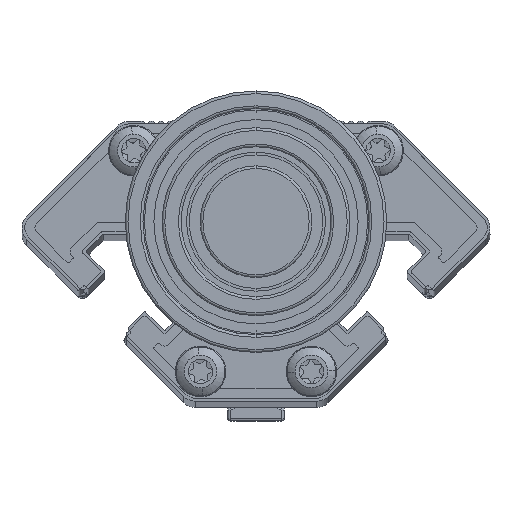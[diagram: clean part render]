
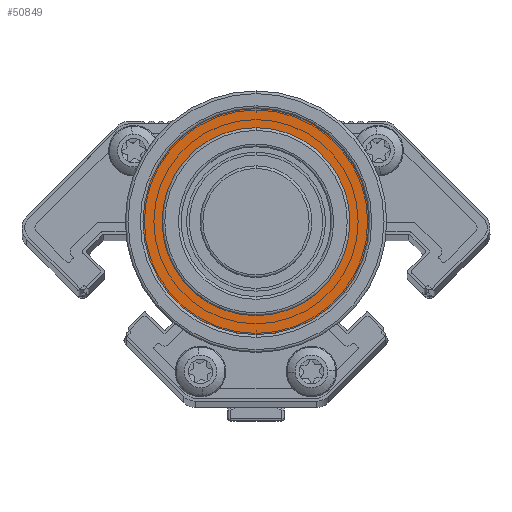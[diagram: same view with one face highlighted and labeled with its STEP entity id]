
A CAD part, top view. The second image highlights one B-rep face of the part: STEP entity #50849.
In plain terms, the highlighted planar face has unit normal (0, 0, 1).
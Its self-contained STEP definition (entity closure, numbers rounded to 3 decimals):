
#2730 = AXIS2_PLACEMENT_3D ( 'NONE', #21792, #81770, #30414 ) ;
#3558 = VERTEX_POINT ( 'NONE', #104944 ) ;
#5675 = VERTEX_POINT ( 'NONE', #37623 ) ;
#9169 = CARTESIAN_POINT ( 'NONE',  ( -53.777, 2.976, 389.745 ) ) ;
#10653 = AXIS2_PLACEMENT_3D ( 'NONE', #85616, #34247, #94217 ) ;
#17496 = DIRECTION ( 'NONE',  ( 0., -1., 0. ) ) ;
#18377 = ORIENTED_EDGE ( 'NONE', *, *, #101572, .F. ) ;
#20778 = ORIENTED_EDGE ( 'NONE', *, *, #36251, .F. ) ;
#21792 = CARTESIAN_POINT ( 'NONE',  ( -53.777, 20.226, 389.745 ) ) ;
#22296 = VERTEX_POINT ( 'NONE', #62883 ) ;
#23459 = VERTEX_POINT ( 'NONE', #9169 ) ;
#29966 = EDGE_CURVE ( 'NONE', #5675, #23459, #68514, .T. ) ;
#30414 = DIRECTION ( 'NONE',  ( 0., 1., 0. ) ) ;
#31156 = ORIENTED_EDGE ( 'NONE', *, *, #64836, .T. ) ;
#31513 = DIRECTION ( 'NONE',  ( 0., 0., -1. ) ) ;
#33235 = CARTESIAN_POINT ( 'NONE',  ( -53.777, 20.226, 389.745 ) ) ;
#34247 = DIRECTION ( 'NONE',  ( 0., 0., -1. ) ) ;
#36251 = EDGE_CURVE ( 'NONE', #22296, #3558, #58250, .T. ) ;
#37248 = CIRCLE ( 'NONE', #38311, 17.25 ) ;
#37623 = CARTESIAN_POINT ( 'NONE',  ( -53.777, 37.476, 389.745 ) ) ;
#38311 = AXIS2_PLACEMENT_3D ( 'NONE', #33235, #93206, #41851 ) ;
#41851 = DIRECTION ( 'NONE',  ( 0., 1., 0. ) ) ;
#44737 = EDGE_LOOP ( 'NONE', ( #75174, #31156 ) ) ;
#50849 = ADVANCED_FACE ( 'NONE', ( #91279, #65775 ), #77082, .T. ) ;
#58250 = CIRCLE ( 'NONE', #62969, 20.75 ) ;
#58351 = AXIS2_PLACEMENT_3D ( 'NONE', #60240, #68837, #17496 ) ;
#60240 = CARTESIAN_POINT ( 'NONE',  ( -74.527, 20.226, 389.745 ) ) ;
#62883 = CARTESIAN_POINT ( 'NONE',  ( -53.777, 40.976, 389.745 ) ) ;
#62969 = AXIS2_PLACEMENT_3D ( 'NONE', #82908, #31513, #91499 ) ;
#64836 = EDGE_CURVE ( 'NONE', #23459, #5675, #37248, .T. ) ;
#65775 = FACE_OUTER_BOUND ( 'NONE', #72234, .T. ) ;
#68514 = CIRCLE ( 'NONE', #10653, 17.25 ) ;
#68837 = DIRECTION ( 'NONE',  ( 0., 0., 1. ) ) ;
#72234 = EDGE_LOOP ( 'NONE', ( #20778, #18377 ) ) ;
#75174 = ORIENTED_EDGE ( 'NONE', *, *, #29966, .T. ) ;
#77082 = PLANE ( 'NONE',  #58351 ) ;
#81149 = CIRCLE ( 'NONE', #2730, 20.75 ) ;
#81770 = DIRECTION ( 'NONE',  ( 0., 0., -1. ) ) ;
#82908 = CARTESIAN_POINT ( 'NONE',  ( -53.777, 20.226, 389.745 ) ) ;
#85616 = CARTESIAN_POINT ( 'NONE',  ( -53.777, 20.226, 389.745 ) ) ;
#91279 = FACE_BOUND ( 'NONE', #44737, .T. ) ;
#91499 = DIRECTION ( 'NONE',  ( 0., 1., 0. ) ) ;
#93206 = DIRECTION ( 'NONE',  ( 0., 0., -1. ) ) ;
#94217 = DIRECTION ( 'NONE',  ( 0., 1., 0. ) ) ;
#101572 = EDGE_CURVE ( 'NONE', #3558, #22296, #81149, .T. ) ;
#104944 = CARTESIAN_POINT ( 'NONE',  ( -53.777, -0.524, 389.745 ) ) ;
